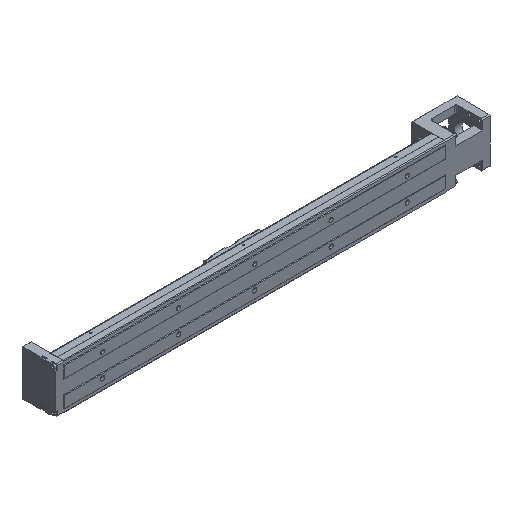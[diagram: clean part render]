
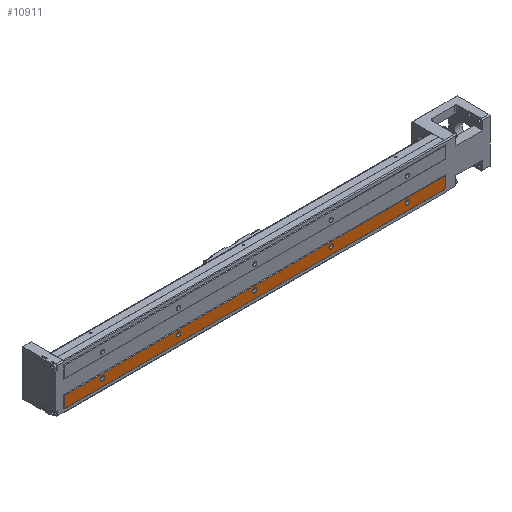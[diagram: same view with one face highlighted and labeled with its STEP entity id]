
A CAD part, isometric view. The second image highlights one B-rep face of the part: STEP entity #10911.
In plain terms, the highlighted planar face has unit normal (0, -1, 0).
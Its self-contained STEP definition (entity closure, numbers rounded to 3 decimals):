
#103 = CIRCLE ( 'NONE', #10136, 2.75 ) ;
#251 = DIRECTION ( 'NONE',  ( 0., 1., 0. ) ) ;
#339 = CARTESIAN_POINT ( 'NONE',  ( -300., -23., -12.25 ) ) ;
#402 = AXIS2_PLACEMENT_3D ( 'NONE', #16718, #8751, #754 ) ;
#494 = DIRECTION ( 'NONE',  ( 0., 1., 0. ) ) ;
#567 = VERTEX_POINT ( 'NONE', #11388 ) ;
#754 = DIRECTION ( 'NONE',  ( 0., 0., -1. ) ) ;
#772 = EDGE_CURVE ( 'NONE', #11879, #9417, #15110, .T. ) ;
#971 = DIRECTION ( 'NONE',  ( 0., 1., 0. ) ) ;
#1140 = DIRECTION ( 'NONE',  ( 0., 1., 0. ) ) ;
#1157 = DIRECTION ( 'NONE',  ( 0., 1., 0. ) ) ;
#1336 = VERTEX_POINT ( 'NONE', #10844 ) ;
#1345 = EDGE_CURVE ( 'NONE', #4310, #16031, #15300, .T. ) ;
#1518 = ORIENTED_EDGE ( 'NONE', *, *, #14464, .T. ) ;
#1554 = LINE ( 'NONE', #7300, #4926 ) ;
#1574 = DIRECTION ( 'NONE',  ( 0., 1., 0. ) ) ;
#1577 = DIRECTION ( 'NONE',  ( -1., 0., 0. ) ) ;
#1793 = CARTESIAN_POINT ( 'NONE',  ( -300., -23., -24.5 ) ) ;
#1835 = AXIS2_PLACEMENT_3D ( 'NONE', #9076, #10346, #12965 ) ;
#1847 = CARTESIAN_POINT ( 'NONE',  ( -150., -23., -17.75 ) ) ;
#2026 = CARTESIAN_POINT ( 'NONE',  ( -250., -23., -15. ) ) ;
#2028 = ORIENTED_EDGE ( 'NONE', *, *, #772, .F. ) ;
#2339 = AXIS2_PLACEMENT_3D ( 'NONE', #7636, #971, #8515 ) ;
#2624 = DIRECTION ( 'NONE',  ( 0., 1., 0. ) ) ;
#2816 = CIRCLE ( 'NONE', #16719, 2.75 ) ;
#2967 = DIRECTION ( 'NONE',  ( 0., 0., 1. ) ) ;
#3119 = EDGE_CURVE ( 'NONE', #14433, #1336, #3396, .T. ) ;
#3396 = CIRCLE ( 'NONE', #7259, 2.75 ) ;
#3569 = CIRCLE ( 'NONE', #2339, 2.75 ) ;
#3596 = CARTESIAN_POINT ( 'NONE',  ( -250., -23., -17.75 ) ) ;
#3695 = EDGE_CURVE ( 'NONE', #6192, #4955, #3569, .T. ) ;
#3888 = AXIS2_PLACEMENT_3D ( 'NONE', #12063, #1574, #12232 ) ;
#4155 = AXIS2_PLACEMENT_3D ( 'NONE', #16316, #15038, #1577 ) ;
#4289 = CARTESIAN_POINT ( 'NONE',  ( 50., -23., -24.5 ) ) ;
#4310 = VERTEX_POINT ( 'NONE', #14537 ) ;
#4348 = CIRCLE ( 'NONE', #11007, 2.75 ) ;
#4416 = ORIENTED_EDGE ( 'NONE', *, *, #3119, .T. ) ;
#4926 = VECTOR ( 'NONE', #15324, 1000. ) ;
#4955 = VERTEX_POINT ( 'NONE', #9195 ) ;
#4958 = CARTESIAN_POINT ( 'NONE',  ( -150., -23., -15. ) ) ;
#5304 = VERTEX_POINT ( 'NONE', #3596 ) ;
#5452 = EDGE_CURVE ( 'NONE', #10995, #13970, #11018, .T. ) ;
#5700 = VECTOR ( 'NONE', #2967, 1000. ) ;
#5760 = CARTESIAN_POINT ( 'NONE',  ( -250., -23., -15. ) ) ;
#5872 = DIRECTION ( 'NONE',  ( 0., 0., -1. ) ) ;
#5962 = ORIENTED_EDGE ( 'NONE', *, *, #7422, .T. ) ;
#6192 = VERTEX_POINT ( 'NONE', #12365 ) ;
#6369 = ORIENTED_EDGE ( 'NONE', *, *, #9246, .F. ) ;
#6581 = CARTESIAN_POINT ( 'NONE',  ( -300., -23., -9.5 ) ) ;
#6676 = FACE_BOUND ( 'NONE', #8964, .T. ) ;
#7006 = EDGE_CURVE ( 'NONE', #4955, #6192, #11588, .T. ) ;
#7036 = EDGE_CURVE ( 'NONE', #1336, #14433, #15749, .T. ) ;
#7157 = ORIENTED_EDGE ( 'NONE', *, *, #15823, .T. ) ;
#7259 = AXIS2_PLACEMENT_3D ( 'NONE', #13225, #1157, #17088 ) ;
#7300 = CARTESIAN_POINT ( 'NONE',  ( 200., -23., -24.5 ) ) ;
#7307 = FACE_OUTER_BOUND ( 'NONE', #11061, .T. ) ;
#7422 = EDGE_CURVE ( 'NONE', #5304, #7547, #8696, .T. ) ;
#7423 = CARTESIAN_POINT ( 'NONE',  ( -50., -23., -12.25 ) ) ;
#7547 = VERTEX_POINT ( 'NONE', #11375 ) ;
#7636 = CARTESIAN_POINT ( 'NONE',  ( 150., -23., -15. ) ) ;
#7761 = EDGE_LOOP ( 'NONE', ( #10148, #8808 ) ) ;
#8074 = EDGE_CURVE ( 'NONE', #16671, #567, #16577, .T. ) ;
#8123 = EDGE_CURVE ( 'NONE', #13970, #10995, #103, .T. ) ;
#8235 = CARTESIAN_POINT ( 'NONE',  ( -50., -23., -15. ) ) ;
#8515 = DIRECTION ( 'NONE',  ( 0., 0., -1. ) ) ;
#8696 = CIRCLE ( 'NONE', #13237, 2.75 ) ;
#8751 = DIRECTION ( 'NONE',  ( 0., 1., 0. ) ) ;
#8808 = ORIENTED_EDGE ( 'NONE', *, *, #5452, .T. ) ;
#8952 = EDGE_LOOP ( 'NONE', ( #5962, #1518 ) ) ;
#8964 = EDGE_LOOP ( 'NONE', ( #4416, #9041 ) ) ;
#9041 = ORIENTED_EDGE ( 'NONE', *, *, #7036, .T. ) ;
#9076 = CARTESIAN_POINT ( 'NONE',  ( -50., -23., -15. ) ) ;
#9111 = AXIS2_PLACEMENT_3D ( 'NONE', #4958, #1140, #15537 ) ;
#9195 = CARTESIAN_POINT ( 'NONE',  ( 150., -23., -12.25 ) ) ;
#9246 = EDGE_CURVE ( 'NONE', #16671, #11879, #14634, .T. ) ;
#9409 = DIRECTION ( 'NONE',  ( 1., 0., 0. ) ) ;
#9417 = VERTEX_POINT ( 'NONE', #16528 ) ;
#9572 = DIRECTION ( 'NONE',  ( 0., 0., -1. ) ) ;
#9904 = VECTOR ( 'NONE', #12244, 1000. ) ;
#10136 = AXIS2_PLACEMENT_3D ( 'NONE', #8235, #251, #9572 ) ;
#10148 = ORIENTED_EDGE ( 'NONE', *, *, #8123, .T. ) ;
#10346 = DIRECTION ( 'NONE',  ( 0., 1., 0. ) ) ;
#10632 = CARTESIAN_POINT ( 'NONE',  ( 50., -23., -9.5 ) ) ;
#10844 = CARTESIAN_POINT ( 'NONE',  ( -150., -23., -12.25 ) ) ;
#10911 = ADVANCED_FACE ( 'NONE', ( #7307, #12896, #6676, #12706, #14569, #14150 ), #13586, .T. ) ;
#10995 = VERTEX_POINT ( 'NONE', #7423 ) ;
#11007 = AXIS2_PLACEMENT_3D ( 'NONE', #2026, #12555, #5872 ) ;
#11017 = ORIENTED_EDGE ( 'NONE', *, *, #8074, .T. ) ;
#11018 = CIRCLE ( 'NONE', #1835, 2.75 ) ;
#11061 = EDGE_LOOP ( 'NONE', ( #6369, #11017, #11619, #2028 ) ) ;
#11375 = CARTESIAN_POINT ( 'NONE',  ( -250., -23., -12.25 ) ) ;
#11388 = CARTESIAN_POINT ( 'NONE',  ( 200., -23., -24.5 ) ) ;
#11588 = CIRCLE ( 'NONE', #402, 2.75 ) ;
#11619 = ORIENTED_EDGE ( 'NONE', *, *, #15642, .T. ) ;
#11879 = VERTEX_POINT ( 'NONE', #6581 ) ;
#11931 = DIRECTION ( 'NONE',  ( 0., 0., -1. ) ) ;
#11990 = CARTESIAN_POINT ( 'NONE',  ( 50., -23., -15. ) ) ;
#12063 = CARTESIAN_POINT ( 'NONE',  ( 50., -23., -15. ) ) ;
#12232 = DIRECTION ( 'NONE',  ( 0., 0., -1. ) ) ;
#12244 = DIRECTION ( 'NONE',  ( 1., 0., 0. ) ) ;
#12365 = CARTESIAN_POINT ( 'NONE',  ( 150., -23., -17.75 ) ) ;
#12407 = VECTOR ( 'NONE', #9409, 1000. ) ;
#12555 = DIRECTION ( 'NONE',  ( 0., 1., 0. ) ) ;
#12706 = FACE_BOUND ( 'NONE', #7761, .T. ) ;
#12896 = FACE_BOUND ( 'NONE', #8952, .T. ) ;
#12965 = DIRECTION ( 'NONE',  ( 0., 0., -1. ) ) ;
#13225 = CARTESIAN_POINT ( 'NONE',  ( -150., -23., -15. ) ) ;
#13237 = AXIS2_PLACEMENT_3D ( 'NONE', #5760, #494, #16526 ) ;
#13396 = ORIENTED_EDGE ( 'NONE', *, *, #3695, .T. ) ;
#13586 = PLANE ( 'NONE',  #4155 ) ;
#13923 = EDGE_LOOP ( 'NONE', ( #13396, #16258 ) ) ;
#13970 = VERTEX_POINT ( 'NONE', #16374 ) ;
#14150 = FACE_BOUND ( 'NONE', #13923, .T. ) ;
#14433 = VERTEX_POINT ( 'NONE', #1847 ) ;
#14464 = EDGE_CURVE ( 'NONE', #7547, #5304, #4348, .T. ) ;
#14537 = CARTESIAN_POINT ( 'NONE',  ( 50., -23., -17.75 ) ) ;
#14569 = FACE_BOUND ( 'NONE', #15492, .T. ) ;
#14634 = LINE ( 'NONE', #339, #5700 ) ;
#14918 = CARTESIAN_POINT ( 'NONE',  ( 50., -23., -12.25 ) ) ;
#15038 = DIRECTION ( 'NONE',  ( 0., -1., 0. ) ) ;
#15110 = LINE ( 'NONE', #10632, #12407 ) ;
#15300 = CIRCLE ( 'NONE', #3888, 2.75 ) ;
#15324 = DIRECTION ( 'NONE',  ( 0., 0., 1. ) ) ;
#15492 = EDGE_LOOP ( 'NONE', ( #16030, #7157 ) ) ;
#15537 = DIRECTION ( 'NONE',  ( 0., 0., -1. ) ) ;
#15642 = EDGE_CURVE ( 'NONE', #567, #9417, #1554, .T. ) ;
#15749 = CIRCLE ( 'NONE', #9111, 2.75 ) ;
#15823 = EDGE_CURVE ( 'NONE', #16031, #4310, #2816, .T. ) ;
#16030 = ORIENTED_EDGE ( 'NONE', *, *, #1345, .T. ) ;
#16031 = VERTEX_POINT ( 'NONE', #14918 ) ;
#16258 = ORIENTED_EDGE ( 'NONE', *, *, #7006, .T. ) ;
#16316 = CARTESIAN_POINT ( 'NONE',  ( 200., -23., -24.5 ) ) ;
#16374 = CARTESIAN_POINT ( 'NONE',  ( -50., -23., -17.75 ) ) ;
#16526 = DIRECTION ( 'NONE',  ( 0., 0., -1. ) ) ;
#16528 = CARTESIAN_POINT ( 'NONE',  ( 200., -23., -9.5 ) ) ;
#16577 = LINE ( 'NONE', #4289, #9904 ) ;
#16671 = VERTEX_POINT ( 'NONE', #1793 ) ;
#16718 = CARTESIAN_POINT ( 'NONE',  ( 150., -23., -15. ) ) ;
#16719 = AXIS2_PLACEMENT_3D ( 'NONE', #11990, #2624, #11931 ) ;
#17088 = DIRECTION ( 'NONE',  ( 0., 0., -1. ) ) ;
